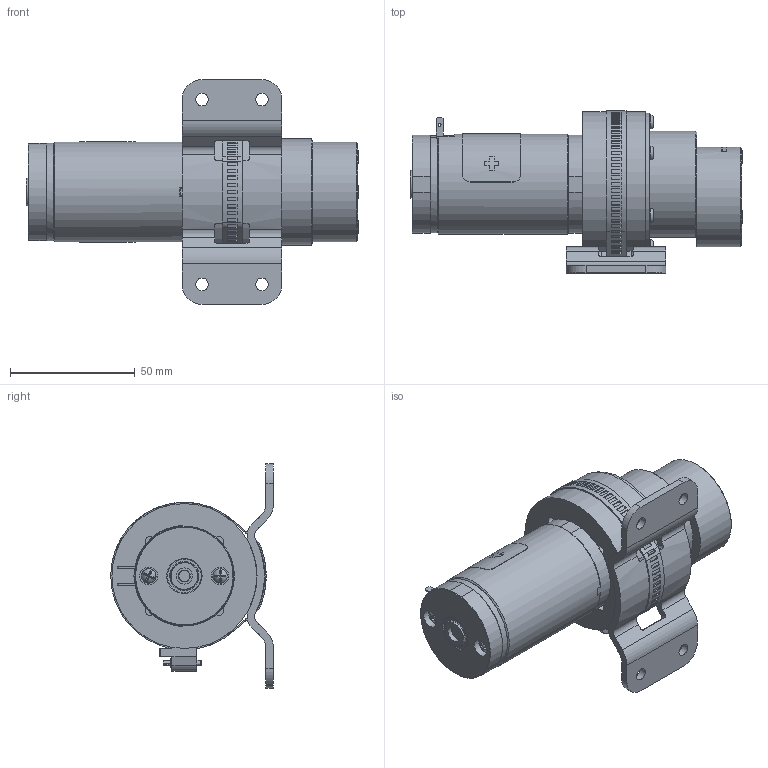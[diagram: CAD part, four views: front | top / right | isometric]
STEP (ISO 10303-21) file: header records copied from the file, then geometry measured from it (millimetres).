
FILE_DESCRIPTION (( 'STEP AP214' ), '1' );
FILE_NAME ('PD13-PM-0.STEP', '2017-03-02T14:36:02', ( '' ), ( '' ), 'SwSTEP 2.0', 'SolidWorks 2015', '' );
FILE_SCHEMA (( 'AUTOMOTIVE_DESIGN' ));
Length unit declared in the file: millimetre
Products named in the file (16): Copy of BB0031^PD11-BO-0; PD03-FL-0; PD13-MA-0; PD07-SC-0_96710A258; PD13-MB-0; PD13-MO-0; Copy of MO0164^PD13-MO-0; PD13-PM-0; bAND^PD13-PM-0; Copy of MB0110^PD13-PM-0; PD11-PU-0; PD03-SC-1; PD11-EP-0; PD03-SC-0; PD11-CU-0; PD11-BO-0
Assembly tree (31 placements, depth 4):
  PD13-PM-0
    PD13-MA-0
      PD13-MO-0
        Copy of MO0164^PD13-MO-0
      PD13-MB-0
      PD07-SC-0_96710A258  x4
    PD11-PU-0
      PD03-FL-0
      PD11-BO-0
        Copy of BB0031^PD11-BO-0
      PD11-CU-0
      PD03-SC-0  x6
      PD11-EP-0
      PD03-SC-1  x3
    PD03-SC-0  x6
    Copy of MB0110^PD13-PM-0
    bAND^PD13-PM-0
Bounding box: 132.95 x 65.1 x 90 mm (x, y, z)
Volume: 143708.6 mm3; surface area: 87320.5 mm2
Topology: 47 solids, 47 shells, 1212 faces, 3044 edges, 1959 vertices
Faces by surface type: plane 691, cylinder 298, bspline 99, cone 95, torus 29
Full cylindrical faces by diameter (mm): 0.105 x2, 0.813 x2, 1.016 x2, 1.194 x2, 2.261 x2, 2.5 x6, 2.743 x6, 3.2 x9, 3.683 x2, 3.747 x2, 3.871 x1, 3.937 x2, 4 x4, 4.2 x3, 4.489 x1, 4.743 x1, 4.759 x2, 4.765 x1, 4.953 x4, 5 x6, 5.08 x2, 5.5 x15, 5.842 x2, 6 x3, 6.096 x4, 6.35 x3, 6.477 x2, 6.858 x4, 7.137 x2, 8.103 x2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
Entity records: 44396 total; most frequent: CARTESIAN_POINT 12292, DIRECTION 5516, ORIENTED_EDGE 5468, EDGE_CURVE 2734, AXIS2_PLACEMENT_3D 2017, VERTEX_POINT 1869, EDGE_LOOP 1567, VECTOR 1482
